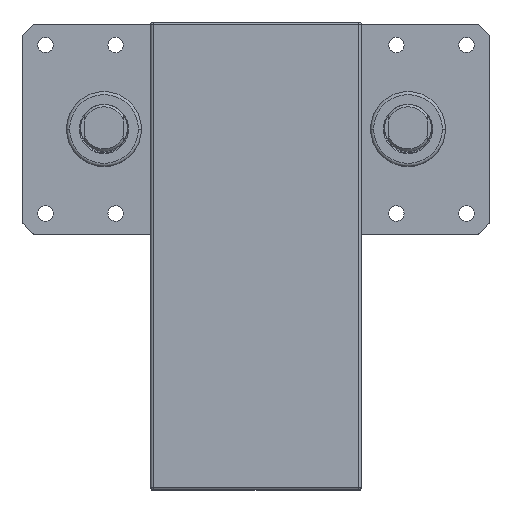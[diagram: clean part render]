
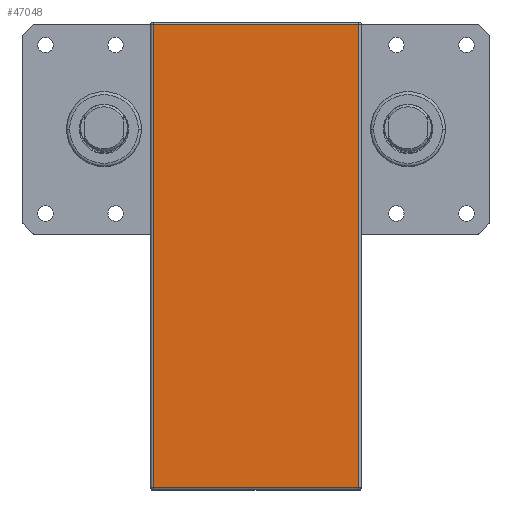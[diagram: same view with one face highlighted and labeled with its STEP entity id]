
A CAD part, top view. The second image highlights one B-rep face of the part: STEP entity #47048.
In plain terms, the highlighted planar face has unit normal (0, 0, 1).
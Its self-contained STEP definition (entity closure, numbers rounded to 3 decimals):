
#198 = DIRECTION ( 'NONE',  ( -1., 0., 0. ) ) ;
#2463 = DIRECTION ( 'NONE',  ( 0., 1., 0. ) ) ;
#2885 = CARTESIAN_POINT ( 'NONE',  ( 44., 44., 463. ) ) ;
#4839 = DIRECTION ( 'NONE',  ( 0., -1., 0. ) ) ;
#4878 = CARTESIAN_POINT ( 'NONE',  ( -44., -154., 463. ) ) ;
#5474 = ORIENTED_EDGE ( 'NONE', *, *, #47774, .T. ) ;
#7656 = VERTEX_POINT ( 'NONE', #2885 ) ;
#8416 = CARTESIAN_POINT ( 'NONE',  ( -44., 44., 463. ) ) ;
#9668 = CARTESIAN_POINT ( 'NONE',  ( -44., -154., 463. ) ) ;
#9962 = EDGE_CURVE ( 'NONE', #28524, #7656, #20660, .T. ) ;
#11958 = CARTESIAN_POINT ( 'NONE',  ( 44., -154., 463. ) ) ;
#12696 = LINE ( 'NONE', #34632, #31323 ) ;
#12728 = CARTESIAN_POINT ( 'NONE',  ( 44., -154., 463. ) ) ;
#13392 = DIRECTION ( 'NONE',  ( 1., 0., 0. ) ) ;
#15025 = FACE_OUTER_BOUND ( 'NONE', #25158, .T. ) ;
#16956 = PLANE ( 'NONE',  #17732 ) ;
#17118 = VECTOR ( 'NONE', #2463, 1000. ) ;
#17732 = AXIS2_PLACEMENT_3D ( 'NONE', #9668, #35668, #13392 ) ;
#17904 = LINE ( 'NONE', #11958, #46338 ) ;
#20184 = ORIENTED_EDGE ( 'NONE', *, *, #43046, .T. ) ;
#20660 = LINE ( 'NONE', #32244, #17118 ) ;
#25158 = EDGE_LOOP ( 'NONE', ( #5474, #38860, #30606, #20184 ) ) ;
#26734 = DIRECTION ( 'NONE',  ( 1., 0., 0. ) ) ;
#28524 = VERTEX_POINT ( 'NONE', #12728 ) ;
#30117 = EDGE_CURVE ( 'NONE', #37147, #28524, #17904, .T. ) ;
#30606 = ORIENTED_EDGE ( 'NONE', *, *, #9962, .T. ) ;
#31114 = LINE ( 'NONE', #44700, #39820 ) ;
#31323 = VECTOR ( 'NONE', #4839, 1000. ) ;
#32244 = CARTESIAN_POINT ( 'NONE',  ( 44., 44., 463. ) ) ;
#33442 = VERTEX_POINT ( 'NONE', #8416 ) ;
#34632 = CARTESIAN_POINT ( 'NONE',  ( -44., -154., 463. ) ) ;
#35668 = DIRECTION ( 'NONE',  ( 0., 0., 1. ) ) ;
#37147 = VERTEX_POINT ( 'NONE', #4878 ) ;
#38860 = ORIENTED_EDGE ( 'NONE', *, *, #30117, .T. ) ;
#39820 = VECTOR ( 'NONE', #198, 1000. ) ;
#43046 = EDGE_CURVE ( 'NONE', #7656, #33442, #31114, .T. ) ;
#44700 = CARTESIAN_POINT ( 'NONE',  ( -44., 44., 463. ) ) ;
#46338 = VECTOR ( 'NONE', #26734, 1000. ) ;
#47048 = ADVANCED_FACE ( 'NONE', ( #15025 ), #16956, .T. ) ;
#47774 = EDGE_CURVE ( 'NONE', #33442, #37147, #12696, .T. ) ;
